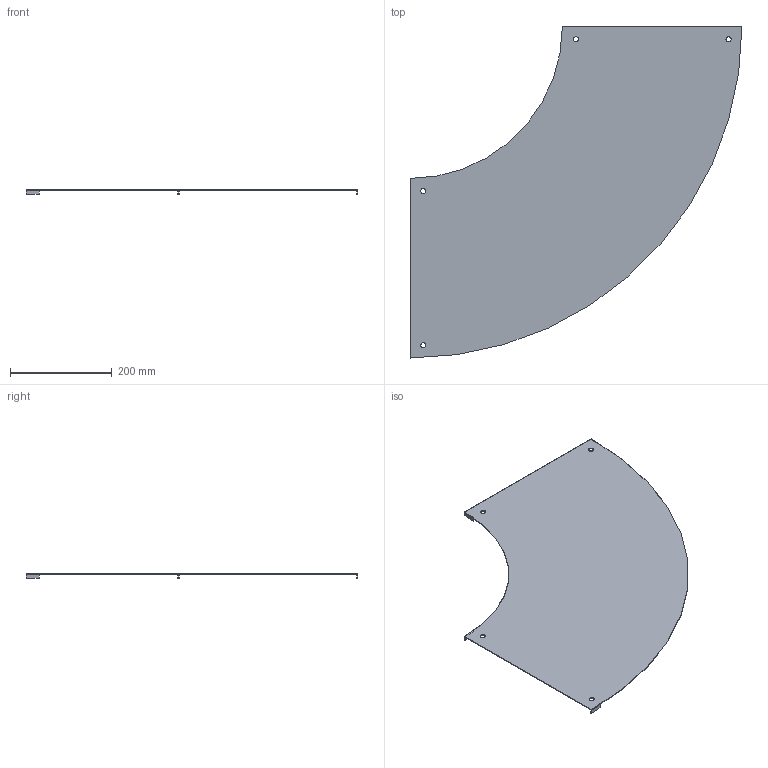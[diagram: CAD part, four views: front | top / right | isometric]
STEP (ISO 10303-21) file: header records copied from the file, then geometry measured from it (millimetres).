
FILE_DESCRIPTION(/* description */ ('','CAx-IF Rec.Pracs.---Representation and Presentation of Product Manufacturing Information (PMI)---4.0---2014-10-13'),/* implementation_level */ '2;1');
FILE_NAME(/* name */ 'Eurostrut_EFBC300-90-300_Cover Bend 90 for Cable Ladder ECL.step',/* time_stamp */ '2026-09-10T08:54:44+02:00',/* author */ (''),/* organization */ (''),/* preprocessor_version */ 'ST-DEVELOPER v20.1',/* originating_system */ 'Autodesk Revit 2027 27.2.0.39',/* authorisation */ '');
FILE_SCHEMA (('AP242_MANAGED_MODEL_BASED_3D_ENGINEERING_MIM_LF { 1 0 10303 442 2 1 4 }'));
Length unit declared in the file: millimetre
Products named in the file (5): TopLevelAssembly; Sweep; Sweep_1; Joined Solid Geometry; Joined Solid Geometry_1
Assembly tree (4 placements, depth 2):
  TopLevelAssembly
    Sweep
    Sweep_1
    Joined Solid Geometry
    Joined Solid Geometry_1
Bounding box: 652.5 x 652.5 x 9 mm (x, y, z)
Volume: 396833.5 mm3; surface area: 533095.5 mm2
Topology: 9 solids, 9 shells, 66 faces, 144 edges, 96 vertices
Faces by surface type: plane 48, cylinder 18
Entity records: 1904 total; most frequent: DIRECTION 330, CARTESIAN_POINT 315, ORIENTED_EDGE 288, EDGE_CURVE 144, AXIS2_PLACEMENT_3D 111, LINE 108, VECTOR 108, VERTEX_POINT 96
